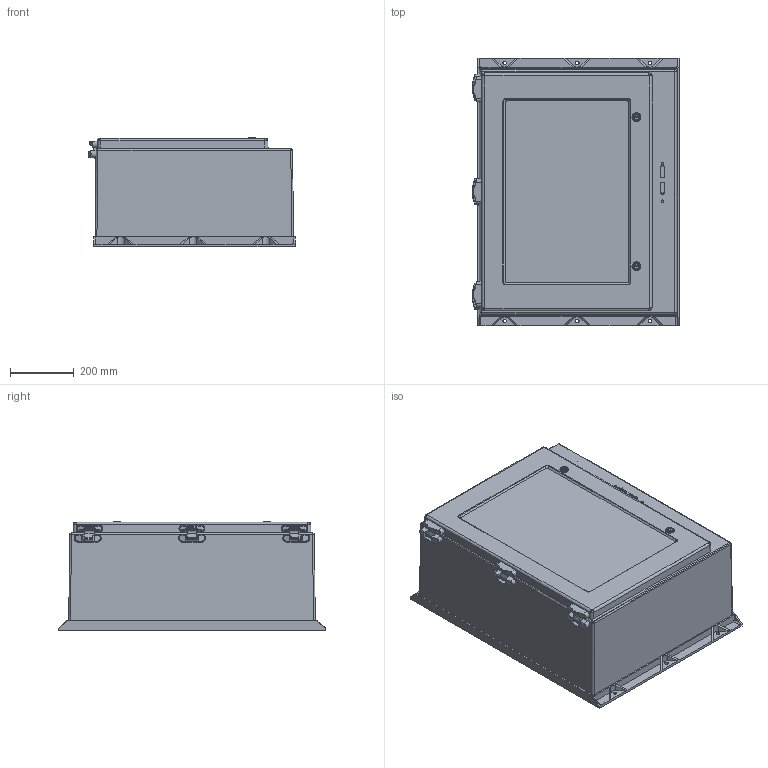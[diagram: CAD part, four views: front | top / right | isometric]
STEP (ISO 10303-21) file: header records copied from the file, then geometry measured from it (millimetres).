
FILE_DESCRIPTION (( 'STEP AP203' ), '1' );
FILE_NAME ('a30hs2412gqrlp.STEP', '2010-11-19T19:32:50', ( 'Hoffman User' ), ( 'Hoffman Enclosures' ), 'SwSTEP 2.0', 'SolidWorks 2009', '' );
FILE_SCHEMA (( 'CONFIG_CONTROL_DESIGN' ));
Length unit declared in the file: inch
Products named in the file (17): A17WD_HingeBody; DoorAssy_30x24; 1000-U142_ASM; 1000-03; 1000-277-01; a30hs2412gqrlp; BodyAssyMed_30x24x12; BodyMed_30x24x12; GroundBar_20_24_30_30in; Door_30x24; 87578440_latch; 1000-U134_ASM; 1000-101-PF_PRT; 1000-318; cam_1000-25; BrktDoorCatch; A17WD_HingeDoor
Assembly tree (22 placements, depth 5):
  a30hs2412gqrlp
    DoorAssy_30x24
      A17WD_HingeDoor  x3
      87578440_latch  x2
        1000-U142_ASM
          1000-318
          1000-277-01
          1000-03
        cam_1000-25
        1000-U134_ASM
          1000-101-PF_PRT  x2
      Door_30x24
      BrktDoorCatch
    BodyAssyMed_30x24x12
      A17WD_HingeBody  x3
      BodyMed_30x24x12
      GroundBar_20_24_30_30in
Bounding box: 649.07 x 843.28 x 345.85 mm (x, y, z)
Volume: 8975759.5 mm3; surface area: 4601477.9 mm2
Topology: 18 solids, 30 shells, 1569 faces, 3867 edges, 2380 vertices
Faces by surface type: plane 698, cylinder 603, bspline 142, cone 84, torus 26, sphere 16
Entity records: 35158 total; most frequent: CARTESIAN_POINT 11071, ORIENTED_EDGE 4642, DIRECTION 4594, EDGE_CURVE 2325, AXIS2_PLACEMENT_3D 1633, VERTEX_POINT 1436, VECTOR 1328, LINE 1328
